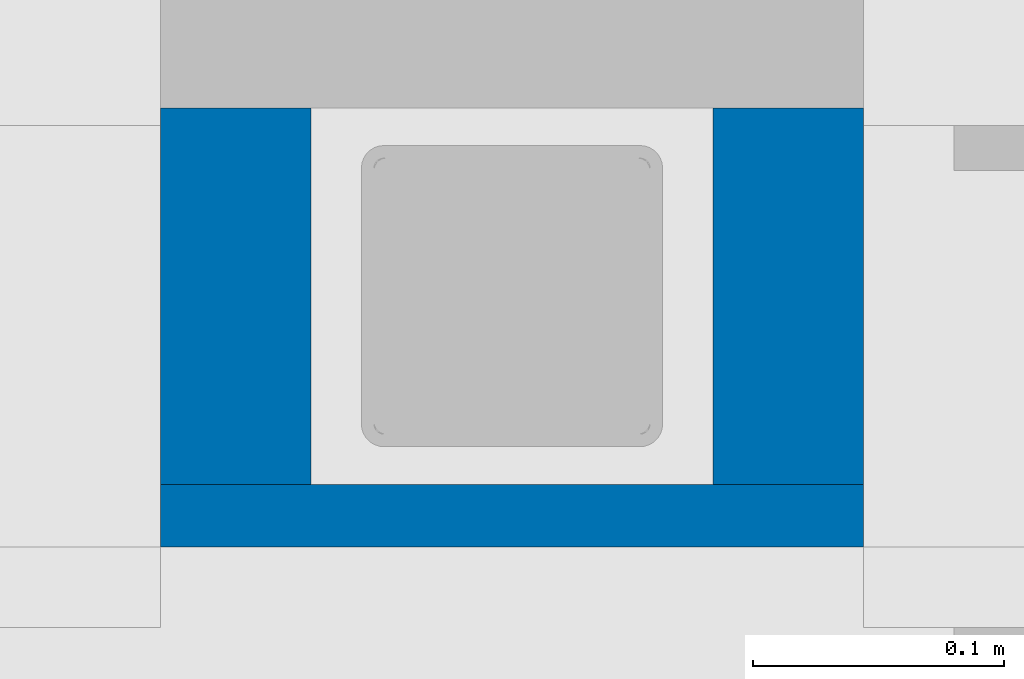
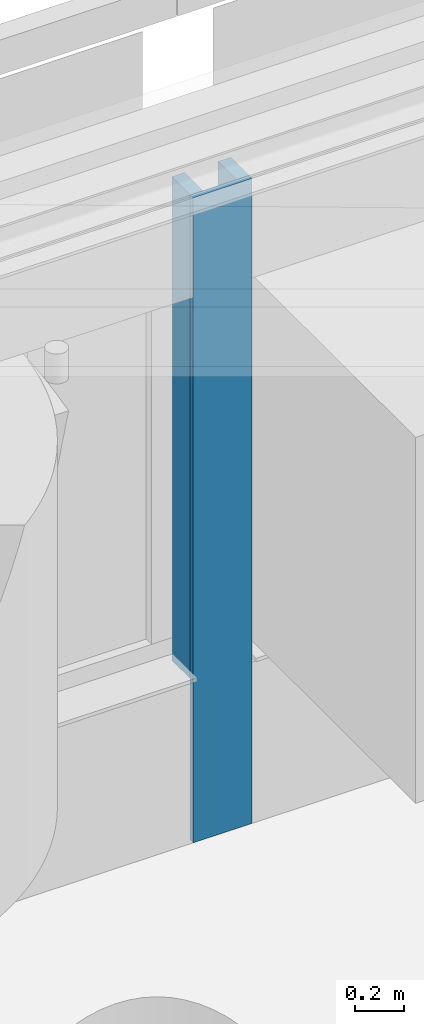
# One storey, part 52 of 128: 3 walls.
"""IFC2X3 building model written with IfcOpenShell, lengths in millimetres."""

from ifc_helpers import new_model, entity, si_unit, converted_unit, derived_unit, direction, frame, frame_2d, origin, place, context, subcontext, project, spatial, rectangle, extrude, material, layer, layer_set, layer_usage, type_object, element, save


model = new_model("IFC2X3")

# Units and contexts
model_context = context("Model", 3, precision=0.01, world=origin(), true_north=direction((6.123031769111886e-17, 1.0)))
body_context = subcontext(model_context, "Body", "Model", "MODEL_VIEW")
ifc_project = project(units=[si_unit("LENGTHUNIT", "METRE", prefix="MILLI"), si_unit("AREAUNIT", "SQUARE_METRE"), si_unit("VOLUMEUNIT", "CUBIC_METRE"), converted_unit("PLANEANGLEUNIT", "DEGREE", entity("IfcRatioMeasure", 0.017453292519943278), si_unit("PLANEANGLEUNIT", "RADIAN"), dimensions=[0, 0, 0, 0, 0, 0, 0]), si_unit("MASSUNIT", "GRAM", prefix="KILO"), derived_unit("MASSDENSITYUNIT", [(si_unit("MASSUNIT", "GRAM", prefix="KILO"), 1), (si_unit("LENGTHUNIT", "METRE"), -3)]), derived_unit("IONCONCENTRATIONUNIT", [(si_unit("MASSUNIT", "GRAM", prefix="KILO"), 1), (si_unit("LENGTHUNIT", "METRE"), -3)]), derived_unit("MOMENTOFINERTIAUNIT", [(si_unit("LENGTHUNIT", "METRE"), 4)]), si_unit("TIMEUNIT", "SECOND"), si_unit("FREQUENCYUNIT", "HERTZ"), si_unit("THERMODYNAMICTEMPERATUREUNIT", "DEGREE_CELSIUS"), derived_unit("THERMALTRANSMITTANCEUNIT", [(si_unit("MASSUNIT", "GRAM", prefix="KILO"), 1), (si_unit("THERMODYNAMICTEMPERATUREUNIT", "KELVIN"), -1), (si_unit("TIMEUNIT", "SECOND"), -3)]), derived_unit("THERMALCONDUCTANCEUNIT", [(si_unit("MASSUNIT", "GRAM", prefix="KILO"), 1), (si_unit("THERMODYNAMICTEMPERATUREUNIT", "KELVIN"), -1), (si_unit("TIMEUNIT", "SECOND"), -3), (si_unit("LENGTHUNIT", "METRE"), 1)]), derived_unit("VOLUMETRICFLOWRATEUNIT", [(si_unit("LENGTHUNIT", "METRE"), 3), (si_unit("TIMEUNIT", "SECOND"), -1)]), derived_unit("MASSFLOWRATEUNIT", [(si_unit("MASSUNIT", "GRAM", prefix="KILO"), 1), (si_unit("TIMEUNIT", "SECOND"), -1)]), derived_unit("ROTATIONALFREQUENCYUNIT", [(si_unit("TIMEUNIT", "SECOND"), -1)]), si_unit("ELECTRICCURRENTUNIT", "AMPERE"), si_unit("ELECTRICVOLTAGEUNIT", "VOLT"), si_unit("POWERUNIT", "WATT"), si_unit("FORCEUNIT", "NEWTON", prefix="KILO"), si_unit("ILLUMINANCEUNIT", "LUX"), si_unit("LUMINOUSFLUXUNIT", "LUMEN"), si_unit("LUMINOUSINTENSITYUNIT", "CANDELA"), derived_unit("USERDEFINED", [(si_unit("MASSUNIT", "GRAM", prefix="KILO"), -1), (si_unit("LENGTHUNIT", "METRE"), -2), (si_unit("TIMEUNIT", "SECOND"), 3), (si_unit("LUMINOUSFLUXUNIT", "LUMEN"), 1)]), derived_unit("USERDEFINED", [(si_unit("MASSUNIT", "GRAM", prefix="KILO"), 1), (si_unit("TIMEUNIT", "SECOND"), -3), (si_unit("LENGTHUNIT", "METRE"), 3), (si_unit("ELECTRICCURRENTUNIT", "AMPERE"), -2)]), derived_unit("SOUNDPOWERUNIT", [(si_unit("MASSUNIT", "GRAM", prefix="KILO"), 1), (si_unit("TIMEUNIT", "SECOND"), -3), (si_unit("LENGTHUNIT", "METRE"), 2)]), derived_unit("SOUNDPRESSUREUNIT", [(si_unit("MASSUNIT", "GRAM", prefix="KILO"), 1), (si_unit("LENGTHUNIT", "METRE"), -1), (si_unit("TIMEUNIT", "SECOND"), -2)]), derived_unit("LINEARVELOCITYUNIT", [(si_unit("LENGTHUNIT", "METRE"), 1), (si_unit("TIMEUNIT", "SECOND"), -1)]), si_unit("PRESSUREUNIT", "PASCAL"), derived_unit("USERDEFINED", [(si_unit("MASSUNIT", "GRAM", prefix="KILO"), 1), (si_unit("LENGTHUNIT", "METRE"), -2), (si_unit("TIMEUNIT", "SECOND"), -2)]), derived_unit("LINEARFORCEUNIT", [(si_unit("MASSUNIT", "GRAM", prefix="KILO"), 1), (si_unit("TIMEUNIT", "SECOND"), -2)]), derived_unit("PLANARFORCEUNIT", [(si_unit("MASSUNIT", "GRAM", prefix="KILO"), 1), (si_unit("LENGTHUNIT", "METRE"), -1), (si_unit("TIMEUNIT", "SECOND"), -2)]), derived_unit("SPECIFICHEATCAPACITYUNIT", [(si_unit("THERMODYNAMICTEMPERATUREUNIT", "KELVIN"), -1), (si_unit("LENGTHUNIT", "METRE"), 2), (si_unit("TIMEUNIT", "SECOND"), -2)]), derived_unit("HEATINGVALUEUNIT", [(si_unit("LENGTHUNIT", "METRE"), 2), (si_unit("TIMEUNIT", "SECOND"), -2)]), derived_unit("VAPORPERMEABILITYUNIT", [(si_unit("LENGTHUNIT", "METRE"), -1), (si_unit("TIMEUNIT", "SECOND"), 1)]), derived_unit("DYNAMICVISCOSITYUNIT", [(si_unit("MASSUNIT", "GRAM", prefix="KILO"), 1), (si_unit("TIMEUNIT", "SECOND"), -1), (si_unit("LENGTHUNIT", "METRE"), -1)]), derived_unit("THERMALEXPANSIONCOEFFICIENTUNIT", [(si_unit("THERMODYNAMICTEMPERATUREUNIT", "KELVIN"), -1)]), derived_unit("MODULUSOFELASTICITYUNIT", [(si_unit("MASSUNIT", "GRAM", prefix="KILO"), 1), (si_unit("LENGTHUNIT", "METRE"), -1), (si_unit("TIMEUNIT", "SECOND"), -2)]), derived_unit("ISOTHERMALMOISTURECAPACITYUNIT", [(si_unit("LENGTHUNIT", "METRE"), 3), (si_unit("MASSUNIT", "GRAM", prefix="KILO"), -1)]), derived_unit("MOISTUREDIFFUSIVITYUNIT", [(si_unit("TIMEUNIT", "SECOND"), -1), (si_unit("LENGTHUNIT", "METRE"), 2)])], contexts=[model_context])

# Site, building, storey
site_placement = place(None, frame((0.0, 300.0, 0.0)))
site = spatial("IfcSite", under=ifc_project, at=site_placement, Name="<Kadastrale nummers>", CompositionType="ELEMENT")
building_placement = place(site_placement, origin())
building = spatial("IfcBuilding", under=site, at=building_placement, CompositionType="ELEMENT")
storey_placement = place(building_placement, frame((0.0, 0.0, 3560.0000331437)))
storey = spatial("IfcBuildingStorey", under=building, at=storey_placement, Name="01 eerste verdieping", CompositionType="ELEMENT", Elevation=3560.0000331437)

# Walls
ifc_material_1 = material(Name="ISR_Gips")
ifc_layer_1 = layer(ifc_material_1, 1.0)
ifc_material_2 = material(Name="ISR_Binnenwand")
ifc_layer_2 = layer(ifc_material_2, 23.0)
ifc_layer_3 = layer(ifc_material_1, 1.0)
ifc_layer_set_1 = layer_set([ifc_layer_1, ifc_layer_2, ifc_layer_3], Name="Basic Wall:22_DAT_binnenwand_25")
ifc_layer_usage_1 = layer_usage(ifc_layer_set_1, "AXIS2", "POSITIVE", -12.499999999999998)
wall_type_1 = type_object("IfcWallType", Name="Basic Wall:22_DAT_binnenwand_25", PredefinedType="STANDARD", material=ifc_layer_set_1)
wall_1_placement = place(storey_placement, frame((21140.0, 49712.499999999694, 90.00000187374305), z_axis=(0.0, 0.0, 1.0), x_axis=(-1.0, 0.0, 0.0)))
element("IfcWallStandardCase", 1, at=wall_1_placement, inside=storey, type_object=wall_type_1, material=ifc_layer_usage_1, Name="Basic Wall:22_DAT_binnenwand_25", ObjectType="Basic Wall:22_DAT_binnenwand_25", context=body_context, shape_type="SweptSolid", body=[
    extrude(rectangle(XDim=279.99999999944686, YDim=24.999999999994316, at=frame_2d((139.99999999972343, 0.0), x_axis=(-1.0, 0.0))), origin(), (0.0, 0.0, 1.0), 3240.000000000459),
])
ifc_material_3 = material(Name="ISR_Dak_isolatie(198)")
ifc_layer_4 = layer(ifc_material_3, 140.0)
ifc_material_4 = material(Name="ISR_Multiplex")
ifc_layer_5 = layer(ifc_material_4, 10.0)
ifc_layer_set_2 = layer_set([ifc_layer_4, ifc_layer_5], Name="Basic Wall:21_DAT_Hekwerk 150")
ifc_layer_usage_2 = layer_usage(ifc_layer_set_2, "AXIS2", "NEGATIVE", 75.0)
wall_type_2 = type_object("IfcWallType", Name="Basic Wall:21_DAT_Hekwerk 150", PredefinedType="STANDARD", material=ifc_layer_set_2)
wall_2_placement = place(storey_placement, frame((20920.0, 49800.0, 900.0000018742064), z_axis=(0.0, 0.0, 1.0), x_axis=(-1.0, 0.0, 0.0)))
element("IfcWallStandardCase", 2, at=wall_2_placement, inside=storey, type_object=wall_type_2, material=ifc_layer_usage_2, Name="Basic Wall:21_DAT_Hekwerk 150", ObjectType="Basic Wall:21_DAT_Hekwerk 150", context=body_context, shape_type="SweptSolid", body=[
    extrude(rectangle(XDim=60.000000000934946, YDim=150.00000000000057, at=frame_2d((30.000000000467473, 5.968558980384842e-13), x_axis=(-1.0, 0.0))), origin(), (0.0, 0.0, 1.0), 2429.9999999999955),
])
ifc_layer_usage_3 = layer_usage(ifc_layer_set_2, "AXIS2", "POSITIVE", -75.0)
wall_3_placement = place(storey_placement, frame((21080.0, 49800.0, 900.0000018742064)))
element("IfcWallStandardCase", 3, at=wall_3_placement, inside=storey, type_object=wall_type_2, material=ifc_layer_usage_3, Name="Basic Wall:21_DAT_Hekwerk 150", ObjectType="Basic Wall:21_DAT_Hekwerk 150", context=body_context, shape_type="SweptSolid", body=[
    extrude(rectangle(XDim=59.99999999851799, YDim=150.00000000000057, at=frame_2d((29.999999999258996, 9.592326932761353e-13), x_axis=(-1.0, 0.0))), origin(), (0.0, 0.0, 1.0), 2429.9999999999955),
])

save(model, "model.ifc")
